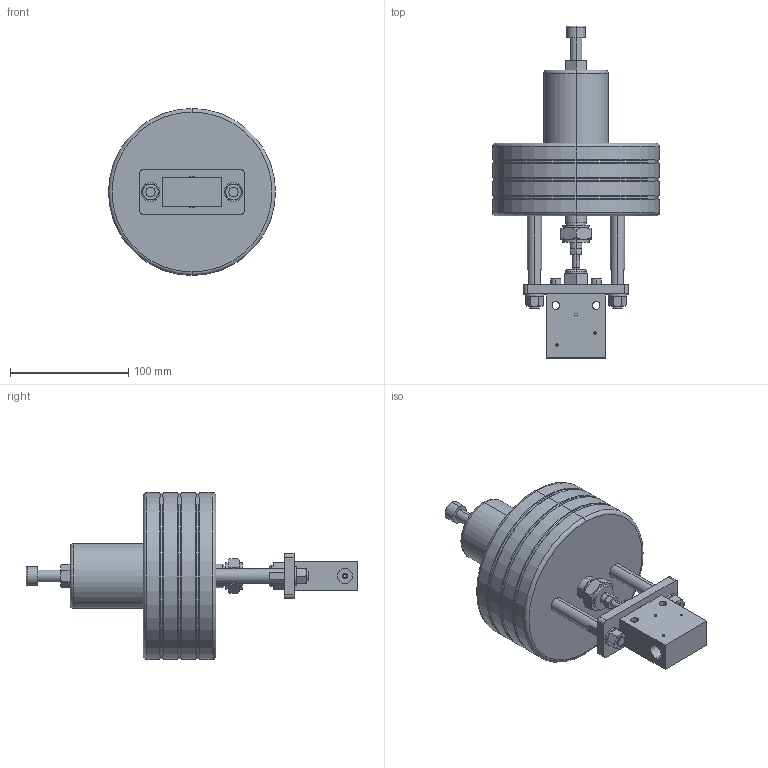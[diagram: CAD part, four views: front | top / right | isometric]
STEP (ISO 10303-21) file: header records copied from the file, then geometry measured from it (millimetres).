
FILE_DESCRIPTION (( 'STEP AP203' ), '1' );
FILE_NAME ('AOV60CS04-S.STEP', '2023-09-05T06:49:21', ( '' ), ( '' ), 'SwSTEP 2.0', 'SolidWorks 2023', '' );
FILE_SCHEMA (( 'CONFIG_CONTROL_DESIGN' ));
Length unit declared in the file: millimetre
Products named in the file (1): AOV60CS04-S
Bounding box: 141 x 280.21 x 141 mm (x, y, z)
Volume: 1152318.4 mm3; surface area: 103584.4 mm2
Topology: 1 solids, 1 shells, 255 faces, 621 edges, 391 vertices
Faces by surface type: plane 103, cylinder 89, cone 53, torus 10
Entity records: 7915 total; most frequent: CARTESIAN_POINT 1726, DIRECTION 1316, ORIENTED_EDGE 1242, EDGE_CURVE 621, AXIS2_PLACEMENT_3D 509, VERTEX_POINT 391, EDGE_LOOP 300, VECTOR 298
